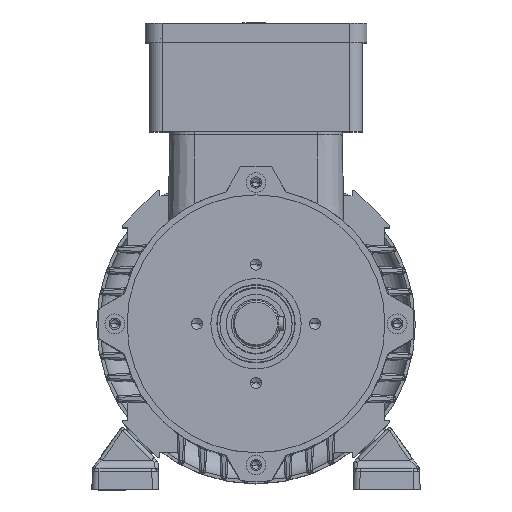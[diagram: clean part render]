
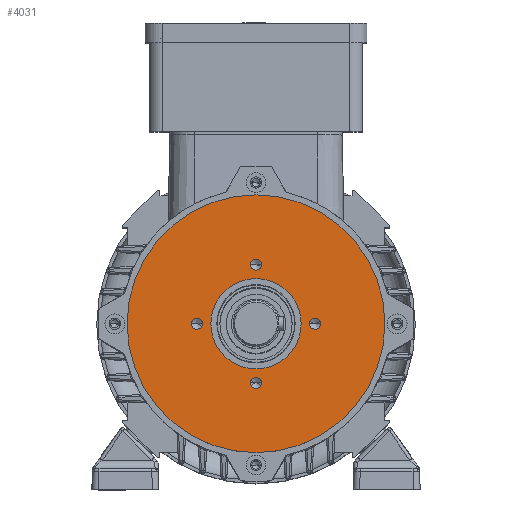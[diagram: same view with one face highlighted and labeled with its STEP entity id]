
A CAD part, top view. The second image highlights one B-rep face of the part: STEP entity #4031.
In plain terms, the highlighted planar face has unit normal (0, 0, 1).
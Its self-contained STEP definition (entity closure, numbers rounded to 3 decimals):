
#801 = CARTESIAN_POINT ( 'NONE',  ( 39.4, 0., 150. ) ) ;
#1803 = EDGE_LOOP ( 'NONE', ( #89645, #55081 ) ) ;
#2665 = EDGE_CURVE ( 'NONE', #63353, #87302, #82267, .T. ) ;
#4031 = ADVANCED_FACE ( 'NONE', ( #42891, #70943, #18157, #91165, #49091, #72470 ), #9580, .T. ) ;
#7920 = CARTESIAN_POINT ( 'NONE',  ( -3.4, 36., 150. ) ) ;
#8132 = DIRECTION ( 'NONE',  ( 0., 0., 1. ) ) ;
#9580 = PLANE ( 'NONE',  #17536 ) ;
#11054 = CIRCLE ( 'NONE', #61296, 27.5 ) ;
#11961 = DIRECTION ( 'NONE',  ( 1., 0., 0. ) ) ;
#13109 = CIRCLE ( 'NONE', #74856, 3.4 ) ;
#13699 = AXIS2_PLACEMENT_3D ( 'NONE', #78184, #17884, #106348 ) ;
#14543 = DIRECTION ( 'NONE',  ( 0., 0., 1. ) ) ;
#15721 = DIRECTION ( 'NONE',  ( 1., 0., 0. ) ) ;
#17480 = DIRECTION ( 'NONE',  ( 1., 0., 0. ) ) ;
#17536 = AXIS2_PLACEMENT_3D ( 'NONE', #119293, #98133, #49043 ) ;
#17686 = CARTESIAN_POINT ( 'NONE',  ( 0., -36., 150. ) ) ;
#17884 = DIRECTION ( 'NONE',  ( 0., 0., -1. ) ) ;
#18157 = FACE_BOUND ( 'NONE', #91185, .T. ) ;
#18779 = DIRECTION ( 'NONE',  ( 0., 0., 1. ) ) ;
#19013 = VERTEX_POINT ( 'NONE', #123166 ) ;
#19461 = DIRECTION ( 'NONE',  ( 1., 0., 0. ) ) ;
#20656 = DIRECTION ( 'NONE',  ( 1., 0., 0. ) ) ;
#21188 = ORIENTED_EDGE ( 'NONE', *, *, #111043, .F. ) ;
#25648 = EDGE_LOOP ( 'NONE', ( #63527, #72069 ) ) ;
#26971 = AXIS2_PLACEMENT_3D ( 'NONE', #68242, #39142, #118070 ) ;
#28216 = AXIS2_PLACEMENT_3D ( 'NONE', #100514, #31938, #11961 ) ;
#29558 = EDGE_CURVE ( 'NONE', #53241, #107487, #70281, .T. ) ;
#30938 = CARTESIAN_POINT ( 'NONE',  ( 36., 0., 150. ) ) ;
#31027 = DIRECTION ( 'NONE',  ( 0., 0., 1. ) ) ;
#31938 = DIRECTION ( 'NONE',  ( 0., 0., 1. ) ) ;
#32465 = ORIENTED_EDGE ( 'NONE', *, *, #128685, .F. ) ;
#32964 = EDGE_CURVE ( 'NONE', #94174, #58429, #91322, .T. ) ;
#33212 = DIRECTION ( 'NONE',  ( 1., 0., 0. ) ) ;
#34744 = AXIS2_PLACEMENT_3D ( 'NONE', #30938, #91733, #80857 ) ;
#34888 = CARTESIAN_POINT ( 'NONE',  ( 0., -36., 150. ) ) ;
#34942 = EDGE_CURVE ( 'NONE', #75364, #53741, #70161, .T. ) ;
#35797 = CARTESIAN_POINT ( 'NONE',  ( -36., 0., 150. ) ) ;
#38155 = CARTESIAN_POINT ( 'NONE',  ( -27.5, 0., 150. ) ) ;
#39142 = DIRECTION ( 'NONE',  ( 0., 0., -1. ) ) ;
#40538 = VERTEX_POINT ( 'NONE', #98812 ) ;
#41206 = EDGE_CURVE ( 'NONE', #53741, #75364, #49111, .T. ) ;
#42891 = FACE_BOUND ( 'NONE', #70105, .T. ) ;
#44396 = DIRECTION ( 'NONE',  ( 0., 0., 1. ) ) ;
#46050 = DIRECTION ( 'NONE',  ( 0., 0., 1. ) ) ;
#46211 = ORIENTED_EDGE ( 'NONE', *, *, #41206, .F. ) ;
#48340 = CARTESIAN_POINT ( 'NONE',  ( -36., 0., 150. ) ) ;
#49043 = DIRECTION ( 'NONE',  ( 1., 0., 0. ) ) ;
#49091 = FACE_OUTER_BOUND ( 'NONE', #25648, .T. ) ;
#49111 = CIRCLE ( 'NONE', #128349, 3.4 ) ;
#50925 = CARTESIAN_POINT ( 'NONE',  ( 0., 0., 150. ) ) ;
#53241 = VERTEX_POINT ( 'NONE', #126481 ) ;
#53741 = VERTEX_POINT ( 'NONE', #125013 ) ;
#55081 = ORIENTED_EDGE ( 'NONE', *, *, #29558, .F. ) ;
#56846 = CARTESIAN_POINT ( 'NONE',  ( -39.4, 0., 150. ) ) ;
#57884 = DIRECTION ( 'NONE',  ( 1., 0., 0. ) ) ;
#58429 = VERTEX_POINT ( 'NONE', #72458 ) ;
#61296 = AXIS2_PLACEMENT_3D ( 'NONE', #88228, #18779, #17480 ) ;
#63353 = VERTEX_POINT ( 'NONE', #38155 ) ;
#63527 = ORIENTED_EDGE ( 'NONE', *, *, #74410, .F. ) ;
#66751 = CIRCLE ( 'NONE', #107385, 3.4 ) ;
#67108 = DIRECTION ( 'NONE',  ( 0., 0., 1. ) ) ;
#68242 = CARTESIAN_POINT ( 'NONE',  ( 0., 0., 150. ) ) ;
#68726 = AXIS2_PLACEMENT_3D ( 'NONE', #48340, #87952, #57884 ) ;
#69482 = EDGE_LOOP ( 'NONE', ( #32465, #117964 ) ) ;
#70105 = EDGE_LOOP ( 'NONE', ( #46211, #88862 ) ) ;
#70161 = CIRCLE ( 'NONE', #124087, 3.4 ) ;
#70281 = CIRCLE ( 'NONE', #34744, 3.4 ) ;
#70943 = FACE_BOUND ( 'NONE', #1803, .T. ) ;
#71674 = EDGE_CURVE ( 'NONE', #107487, #53241, #116193, .T. ) ;
#72069 = ORIENTED_EDGE ( 'NONE', *, *, #32964, .F. ) ;
#72458 = CARTESIAN_POINT ( 'NONE',  ( 78.5, 0., 150. ) ) ;
#72470 = FACE_BOUND ( 'NONE', #99824, .T. ) ;
#72763 = EDGE_CURVE ( 'NONE', #77073, #40538, #66751, .T. ) ;
#74410 = EDGE_CURVE ( 'NONE', #58429, #94174, #78514, .T. ) ;
#74856 = AXIS2_PLACEMENT_3D ( 'NONE', #17686, #67108, #75843 ) ;
#74880 = DIRECTION ( 'NONE',  ( 1., 0., 0. ) ) ;
#75364 = VERTEX_POINT ( 'NONE', #7920 ) ;
#75843 = DIRECTION ( 'NONE',  ( 1., 0., 0. ) ) ;
#77073 = VERTEX_POINT ( 'NONE', #88046 ) ;
#77522 = AXIS2_PLACEMENT_3D ( 'NONE', #35797, #14543, #74880 ) ;
#78184 = CARTESIAN_POINT ( 'NONE',  ( 0., 0., 150. ) ) ;
#78514 = CIRCLE ( 'NONE', #13699, 78.5 ) ;
#80857 = DIRECTION ( 'NONE',  ( 1., 0., 0. ) ) ;
#82267 = CIRCLE ( 'NONE', #125800, 27.5 ) ;
#87302 = VERTEX_POINT ( 'NONE', #116020 ) ;
#87952 = DIRECTION ( 'NONE',  ( 0., 0., 1. ) ) ;
#88046 = CARTESIAN_POINT ( 'NONE',  ( -3.4, -36., 150. ) ) ;
#88228 = CARTESIAN_POINT ( 'NONE',  ( 0., 0., 150. ) ) ;
#88862 = ORIENTED_EDGE ( 'NONE', *, *, #34942, .F. ) ;
#89519 = ORIENTED_EDGE ( 'NONE', *, *, #99822, .F. ) ;
#89645 = ORIENTED_EDGE ( 'NONE', *, *, #71674, .F. ) ;
#90123 = EDGE_CURVE ( 'NONE', #109579, #19013, #119547, .T. ) ;
#91165 = FACE_BOUND ( 'NONE', #69482, .T. ) ;
#91185 = EDGE_LOOP ( 'NONE', ( #21188, #100199 ) ) ;
#91322 = CIRCLE ( 'NONE', #26971, 78.5 ) ;
#91733 = DIRECTION ( 'NONE',  ( 0., 0., 1. ) ) ;
#94174 = VERTEX_POINT ( 'NONE', #109505 ) ;
#94424 = CIRCLE ( 'NONE', #77522, 3.4 ) ;
#98133 = DIRECTION ( 'NONE',  ( 0., 0., 1. ) ) ;
#98812 = CARTESIAN_POINT ( 'NONE',  ( 3.4, -36., 150. ) ) ;
#99822 = EDGE_CURVE ( 'NONE', #87302, #63353, #11054, .T. ) ;
#99824 = EDGE_LOOP ( 'NONE', ( #89519, #124762 ) ) ;
#100199 = ORIENTED_EDGE ( 'NONE', *, *, #72763, .F. ) ;
#100514 = CARTESIAN_POINT ( 'NONE',  ( 36., 0., 150. ) ) ;
#106348 = DIRECTION ( 'NONE',  ( 1., 0., 0. ) ) ;
#106354 = CARTESIAN_POINT ( 'NONE',  ( 0., 36., 150. ) ) ;
#107385 = AXIS2_PLACEMENT_3D ( 'NONE', #34888, #44396, #33212 ) ;
#107487 = VERTEX_POINT ( 'NONE', #801 ) ;
#109505 = CARTESIAN_POINT ( 'NONE',  ( -78.5, 0., 150. ) ) ;
#109579 = VERTEX_POINT ( 'NONE', #56846 ) ;
#111043 = EDGE_CURVE ( 'NONE', #40538, #77073, #13109, .T. ) ;
#116020 = CARTESIAN_POINT ( 'NONE',  ( 27.5, 0., 150. ) ) ;
#116193 = CIRCLE ( 'NONE', #28216, 3.4 ) ;
#117964 = ORIENTED_EDGE ( 'NONE', *, *, #90123, .F. ) ;
#118070 = DIRECTION ( 'NONE',  ( 1., 0., 0. ) ) ;
#119293 = CARTESIAN_POINT ( 'NONE',  ( 0., 80., 150. ) ) ;
#119547 = CIRCLE ( 'NONE', #68726, 3.4 ) ;
#123166 = CARTESIAN_POINT ( 'NONE',  ( -32.6, 0., 150. ) ) ;
#124087 = AXIS2_PLACEMENT_3D ( 'NONE', #127003, #8132, #19461 ) ;
#124762 = ORIENTED_EDGE ( 'NONE', *, *, #2665, .F. ) ;
#125013 = CARTESIAN_POINT ( 'NONE',  ( 3.4, 36., 150. ) ) ;
#125800 = AXIS2_PLACEMENT_3D ( 'NONE', #50925, #31027, #20656 ) ;
#126481 = CARTESIAN_POINT ( 'NONE',  ( 32.6, 0., 150. ) ) ;
#127003 = CARTESIAN_POINT ( 'NONE',  ( 0., 36., 150. ) ) ;
#128349 = AXIS2_PLACEMENT_3D ( 'NONE', #106354, #46050, #15721 ) ;
#128685 = EDGE_CURVE ( 'NONE', #19013, #109579, #94424, .T. ) ;
